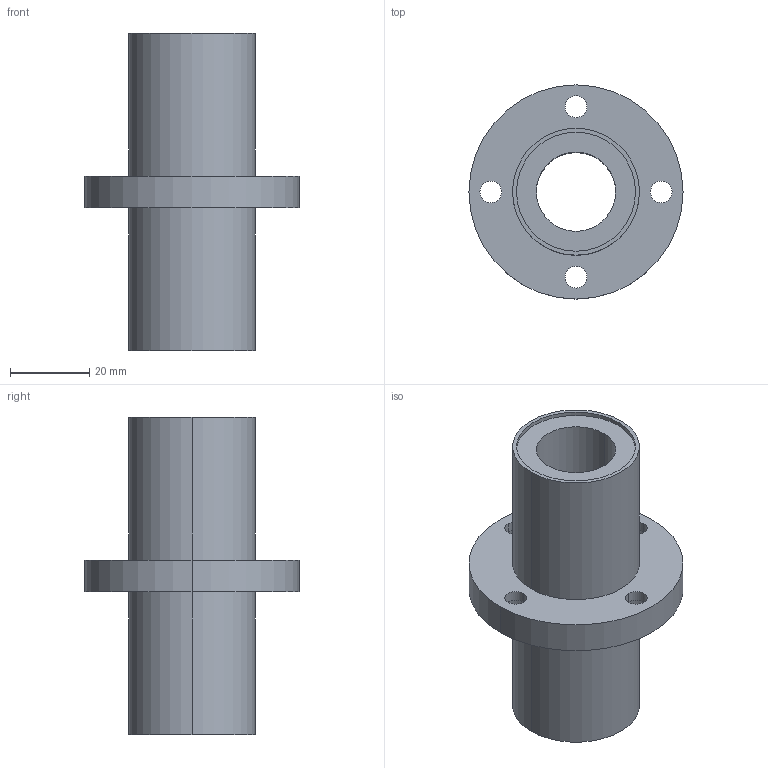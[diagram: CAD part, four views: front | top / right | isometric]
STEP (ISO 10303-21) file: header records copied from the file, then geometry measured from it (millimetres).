
FILE_DESCRIPTION((''),'2;1');
FILE_NAME('C:\Documents and Settings\ｿﾀﾀ蠑ｷ1\ｹﾙﾅﾁ ﾈｭｸ饅\ｺﾎﾇｰﾆﾄﾀﾏ\ﾁｦﾇｰ\LMFM__UU\LMFM20UU.stp','2005-06-15T13:24:33',('ｿﾀﾀ蠑ｷ1'),(''),'Autodesk Inventor 9','Autodesk Inventor 9','');
FILE_SCHEMA(('AUTOMOTIVE_DESIGN { 1 0 10303 214 1 1 1 1 }'));
Length unit declared in the file: millimetre
Products named in the file (1): LMFM__
Bounding box: 54 x 54 x 80 mm (x, y, z)
Volume: 48531.3 mm3; surface area: 18271.2 mm2
Topology: 1 solids, 1 shells, 38 faces, 84 edges, 56 vertices
Faces by surface type: cylinder 28, plane 10
Entity records: 1127 total; most frequent: DIRECTION 218, CARTESIAN_POINT 179, ORIENTED_EDGE 168, AXIS2_PLACEMENT_3D 95, EDGE_CURVE 84, VERTEX_POINT 56, CIRCLE 56, EDGE_LOOP 56
